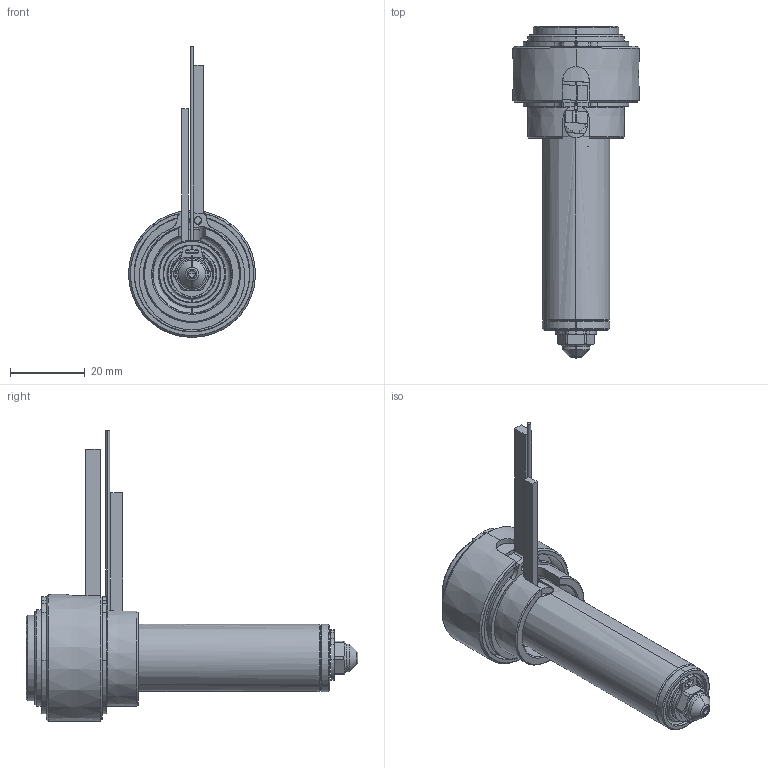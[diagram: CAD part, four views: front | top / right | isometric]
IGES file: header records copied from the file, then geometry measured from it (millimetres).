
Start section: SolidWorks IGES file using analytic representation for surfaces
Global section: file name: C:\Documents and Settings\ws-20\Desktop\TEM\UGER2502-M-A-1 [Øb-1.90 ØC-5.0].IGS; native system: SolidWorks 2012; preprocessor: SolidWorks 2012; author: ws-20; date: 120405.105101; units: millimetre
Bounding box: 34 x 88.9 x 77.9 mm (x, y, z)
Surface area: 23833.3 mm2 (no closed solid volume)
Topology: 0 solids, 0 shells, 197 faces, 2565 edges, 2563 vertices
Faces by surface type: revolution 126, bspline 71
